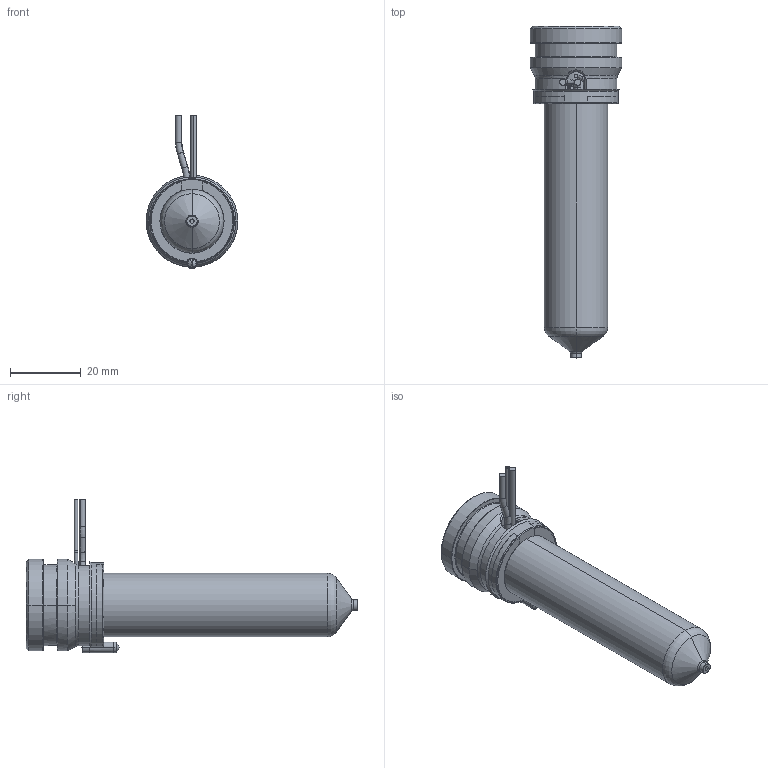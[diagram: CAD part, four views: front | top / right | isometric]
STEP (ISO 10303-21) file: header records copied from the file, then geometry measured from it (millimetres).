
FILE_DESCRIPTION((''),'2;1');
FILE_NAME('MPN-08-24-VP3-076-A','2026-02-05T12:01:25',('UPTIO'),('Thermoplay S.p.A.'),'CREO PARAMETRIC BY PTC INC, 2023494','CREO PARAMETRIC BY PTC INC, 2023494','');
FILE_SCHEMA(('CONFIG_CONTROL_DESIGN','SHAPE_APPEARANCE_LAYERS_GROUPS'));
Length unit declared in the file: millimetre
Products named in the file (1): MPN-08-24-VP3-076-A
Bounding box: 26 x 94.1 x 43.5 mm (x, y, z)
Volume: 19297.9 mm3; surface area: 23884.3 mm2
Topology: 2 solids, 3 shells, 587 faces, 1560 edges, 971 vertices
Faces by surface type: cylinder 184, plane 143, bspline 108, torus 70, cone 68, sphere 8, extrusion 6
Entity records: 31798 total; most frequent: CARTESIAN_POINT 14564, ORIENTED_EDGE 3104, DIRECTION 2714, EDGE_CURVE 1552, AXIS2_PLACEMENT_3D 1061, VERTEX_POINT 971, EDGE_LOOP 615, VECTOR 592
